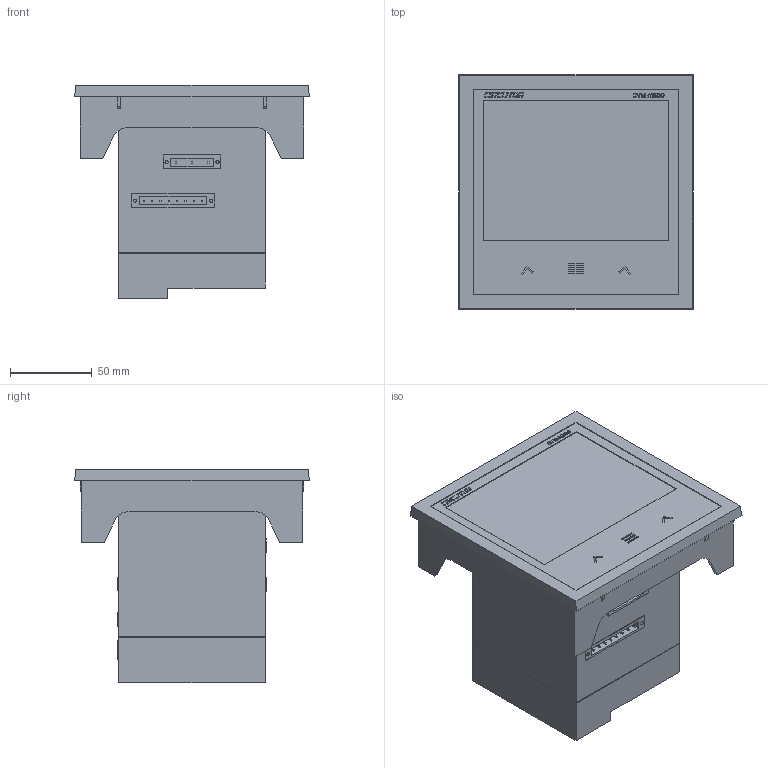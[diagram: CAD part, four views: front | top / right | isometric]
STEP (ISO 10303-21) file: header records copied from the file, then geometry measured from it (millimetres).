
FILE_DESCRIPTION((''),'2;1');
FILE_NAME('CVM_A1500','2017-11-10T',('mpoy'),(''),'CREO PARAMETRIC BY PTC INC, 2015290','CREO PARAMETRIC BY PTC INC, 2015290','');
FILE_SCHEMA(('AUTOMOTIVE_DESIGN { 1 0 10303 214 1 1 1 1 }'));
Length unit declared in the file: millimetre
Products named in the file (1): CVM_A1500
Bounding box: 144 x 144 x 131.1 mm (x, y, z)
Volume: 1254556.4 mm3; surface area: 107169 mm2
Topology: 1 solids, 1 shells, 771 faces, 2010 edges, 1340 vertices
Faces by surface type: plane 702, cylinder 69
Entity records: 31077 total; most frequent: CARTESIAN_POINT 4123, ORIENTED_EDGE 4020, DIRECTION 3690, PRESENTATION_STYLE_ASSIGNMENT 2011, STYLED_ITEM 2011, CURVE_STYLE 2010, EDGE_CURVE 2010, VECTOR 1872
